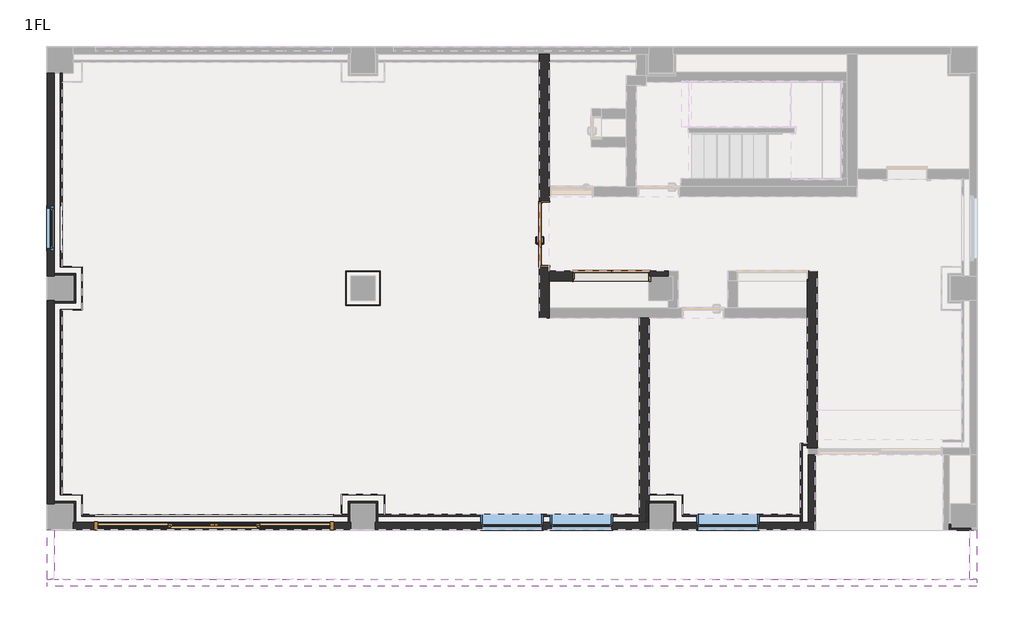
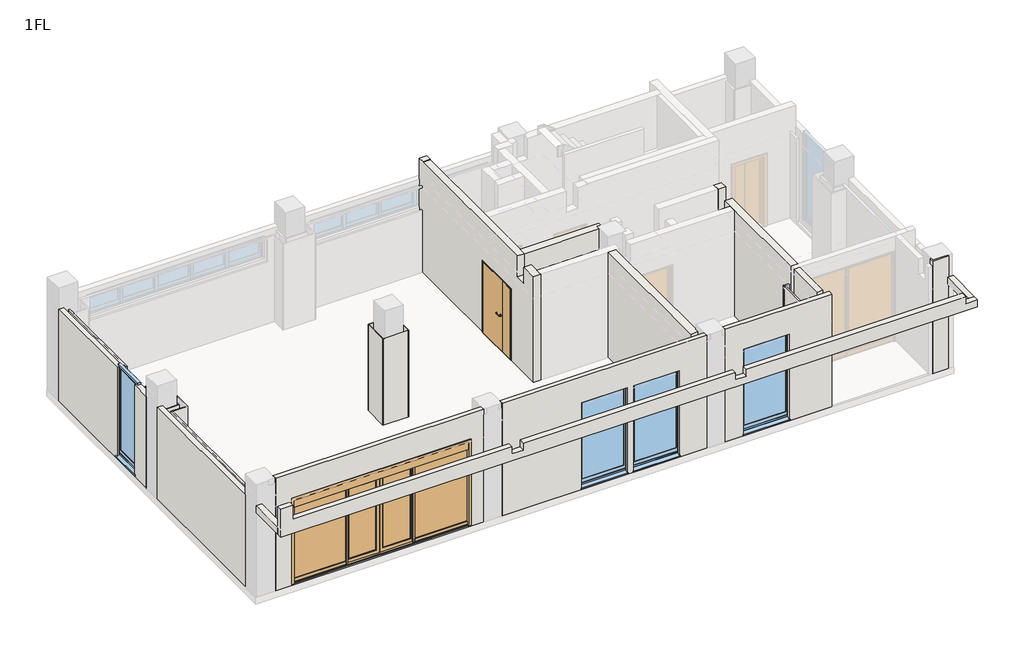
# One storey, part 1 of 3: 43 walls, 4 windows, 3 doors.
"""IFC4 building model written with IfcOpenShell, lengths in millimetres."""

from ifc_helpers import new_model, si_unit, frame, origin, place, context, project, spatial, polyline, outline, extrude, faceted_brep, transform, mapped, element, save
from components import door_5dd87f21, door_5352abf3, door_2ddaac4c, window_34b737b2, window_808e8724

model = new_model("IFC4")

# Units and contexts
model_context = context("Model", 3, world=origin())
ifc_project = project(units=[si_unit("LENGTHUNIT", "METRE", prefix="MILLI")], contexts=[model_context])

# Site, building, storey
site = spatial("IfcSite", under=ifc_project)
building = spatial("IfcBuilding", under=site)
storey = spatial("IfcBuildingStorey", under=building, Name="1FL", Elevation=100.0)

# Doors
placement = place(None, origin())
door_shape = door_5dd87f21(model_context)
element("IfcDoor", 1, ObjectType="B1 両開 フラッシュ_A1枠 : SD5-H2000W1500", at=placement, inside=storey, context=model_context, shape_type="MappedRepresentation", body=[
    mapped(door_shape, transform((11090.0, 4839.9999966, 100.0), x_axis=(1.0, 0.0, 0.0), y_axis=(0.0, 1.0, 0.0), z_axis=(0.0, 0.0, 1.0))),
])
door_2_shape = door_5352abf3(model_context)
element("IfcDoor", 2, ObjectType="□C1 親子 フラッシュ_A2枠 : SD1_H2000W1250", at=placement, inside=storey, context=model_context, shape_type="MappedRepresentation", body=[
    mapped(door_2_shape, transform((9740.0, 5687.5, 100.0), x_axis=(0.0, -1.0, 0.0), y_axis=(1.0, 0.0, 0.0), z_axis=(0.0, 0.0, 1.0))),
])
door_3_shape = door_2ddaac4c(model_context)
element("IfcDoor", 3, ObjectType="BC_STD_引分自動_欄間付 : SSD2_H2360W4680", at=placement, inside=storey, context=model_context, shape_type="MappedRepresentation", body=[
    mapped(door_3_shape, transform((3090.0, -197.5, 100.0), x_axis=(-1.0, 0.0, 0.0), y_axis=(0.0, -1.0, 0.0), z_axis=(0.0, 0.0, 1.0))),
])

# Walls
element("IfcWall", 4, ObjectType="•_RC120+押出法ポリスチレンフォーム1種 t25", at=placement, inside=storey, context=model_context, shape_type="Brep", body=[
    faceted_brep([(-125.0, 8930.0, 50.0), (-125.0, 8930.0, 2649.9998563), (-125.0, 6260.0, 2649.9998563), (-125.0, 6260.0, 185.0), (-125.0, 5340.0, 185.0), (-125.0, 5340.0, 2649.9998563), (-125.0, 4840.0, 2649.9998563), (-125.0, 4840.0, 50.0), (-125.0, 4860.0, 50.0), (-125.0, 4890.0, 50.0), (-270.0, 6210.0, 170.0), (-270.0, 6210.0, 2649.9998563), (-270.0, 8930.0, 2649.9998563), (-270.0, 8930.0, 50.0), (-270.0, 4840.0, 50.0), (-270.0, 4840.0, 2649.9998563), (-270.0, 5390.0, 2649.9998563), (-270.0, 5390.0, 170.0), (-270.0, 5390.0, 115.0), (-270.0, 6210.0, 115.0), (-210.0, 6210.0, 2649.9998563), (-210.0, 6260.0, 2649.9998563), (-210.0, 5340.0, 2649.9998563), (-210.0, 5390.0, 2649.9998563), (-210.0, 6260.0, 115.0), (-140.0, 6260.0, 115.0), (-140.0, 6260.0, 185.0), (-140.0, 5340.0, 185.0), (-140.0, 5340.0, 115.0), (-210.0, 5340.0, 115.0), (-210.0, 6210.0, 115.0), (-210.0, 5390.0, 115.0)], [[[0, 1, 2, 3, 4, 5, 6, 7, 8, 9]], [[10, 11, 12, 13, 14, 15, 16, 17, 18, 19]], [[13, 0, 9, 8, 7, 14]], [[1, 12, 11, 20, 21, 2]], [[5, 22, 23, 16, 15, 6]], [[1, 0, 13, 12]], [[24, 25, 26, 3, 2, 21]], [[27, 28, 29, 22, 5, 4]], [[26, 27, 4, 3]], [[25, 24, 30, 19, 18, 31, 29, 28]], [[30, 24, 21, 20]], [[29, 31, 23, 22]], [[25, 28, 27, 26]], [[19, 30, 20, 11, 10]], [[31, 18, 17, 16, 23]], [[7, 6, 15, 14]]]),
    faceted_brep([(-125.0, 250.0, 2649.9998563), (-125.0, 250.0, 50.0), (-125.0, 270.0, 50.0), (-125.0, 300.0, 50.0), (-125.0, 4290.0, 50.0), (-125.0, 4320.0, 50.0), (-125.0, 4340.0, 50.0), (-125.0, 4340.0, 2649.9998563), (-270.0, 250.0, 50.0), (-270.0, 250.0, 2649.9998563), (-270.0, 4340.0, 2649.9998563), (-270.0, 4340.0, 50.0)], [[[0, 1, 2, 3, 4, 5, 6, 7]], [[8, 9, 10, 11]], [[1, 8, 11, 6, 5, 4, 3, 2]], [[9, 0, 7, 10]], [[7, 6, 11, 10]], [[1, 0, 9, 8]]]),
])
element("IfcWall", 5, ObjectType="•_RC120+押出法ポリスチレンフォーム1種 t25", at=placement, inside=storey, context=model_context, shape_type="Brep", body=[
    faceted_brep([(15200.0, -125.0, 50.0), (15055.0, -125.0, 50.0), (14940.0, -125.0, 50.0), (14897.5, -125.0, 50.0), (12389.9999426, -125.0, 50.0), (12359.9999426, -125.0, 50.0), (12340.0, -125.0, 50.0), (12340.0, -125.0, 2650.0), (15055.0, -125.0, 2650.0), (15200.0, -125.0, 2650.0), (12810.0, -125.0, 2530.0), (12810.0, -125.0, 95.0), (14070.0, -125.0, 95.0), (14070.0, -125.0, 2530.0), (15200.0, -270.0, 50.0), (15200.0, -270.0, 3100.0), (15200.0, -270.0, 3250.0), (12340.0, -270.0, 3250.0), (12340.0, -270.0, 3100.0), (12340.0, -270.0, 50.0), (14050.0, -270.0, 95.0), (12830.0, -270.0, 95.0), (12830.0, -270.0, 2510.0), (14050.0, -270.0, 2510.0), (15200.0, -150.0, 3250.0), (12340.0, -150.0, 3250.0), (12340.0, -250.0, 3250.0), (15200.0, -150.0, 2650.0), (15200.0, -150.0, 3100.0), (12810.0, -210.0, 95.0), (12830.0, -210.0, 95.0), (14050.0, -210.0, 95.0), (14070.0, -210.0, 95.0), (12810.0, -210.0, 2530.0), (14070.0, -210.0, 2530.0), (14050.0, -210.0, 2510.0), (12830.0, -210.0, 2510.0), (12340.0000006, -150.0, 2650.0)], [[[0, 1, 2, 3, 4, 5, 6, 7, 8, 9], [10, 11, 12, 13]], [[14, 15, 16, 17, 18, 19], [20, 21, 22, 23]], [[6, 5, 4, 3, 2, 1, 0, 14, 19]], [[17, 16, 24, 25, 26]], [[16, 15, 14, 0, 9, 27, 28, 24]], [[29, 30, 21, 20, 31, 32, 12, 11]], [[29, 33, 34, 32, 31, 35, 36, 30]], [[21, 30, 36, 22]], [[31, 20, 23, 35]], [[36, 35, 23, 22]], [[27, 37, 25, 24, 28]], [[37, 27, 9, 8, 7]], [[6, 19, 18, 17, 26, 25, 37, 7]], [[33, 29, 11, 10]], [[32, 34, 13, 12]], [[34, 33, 10, 13]]]),
    faceted_brep([(5840.0, -125.0, 50.0), (5820.0008327, -125.0, 50.0), (5790.0008327, -125.0, 50.0), (300.0, -125.0, 50.0), (270.0, -125.0, 50.0), (250.0, -125.0, 50.0), (250.0, -125.0, 2650.0), (5840.0, -125.0, 2650.0), (5500.0, -125.0, 85.0), (5500.0, -125.0, 2530.0), (680.0, -125.0, 2530.0), (680.0, -125.0, 85.0), (5840.0, -270.0, 50.0), (5840.0, -270.0, 3100.0), (5840.0, -270.0, 3250.0), (250.0, -270.0, 3250.0), (250.0, -270.0, 3100.0), (250.0, -270.0, 50.0), (5500.0, -270.0, 2530.0), (5500.0, -270.0, 85.0), (680.0, -270.0, 85.0), (680.0, -270.0, 2530.0), (5840.0, -150.0, 3250.0), (250.0, -150.0, 3250.0), (250.0, -250.0, 3250.0), (5840.0, -250.0, 3250.0), (5840.0, -150.0, 2650.0), (250.0, -150.0, 2650.0)], [[[0, 1, 2, 3, 4, 5, 6, 7], [8, 9, 10, 11]], [[12, 13, 14, 15, 16, 17], [18, 19, 20, 21]], [[5, 4, 3, 2, 1, 0, 12, 17]], [[22, 23, 24, 15, 14, 25]], [[12, 0, 7, 26, 22, 25, 14, 13]], [[8, 19, 18, 9]], [[19, 8, 11, 20]], [[20, 11, 10, 21]], [[9, 18, 21, 10]], [[23, 22, 26, 27]], [[7, 6, 27, 26]], [[5, 17, 16, 15, 24, 23, 27, 6]]]),
    faceted_brep([(11840.0, -125.0, 50.0), (11820.0015823, -125.0, 50.0), (11790.0015823, -125.0, 50.0), (11649.9999991, -125.0, 50.0), (6389.9999426, -125.0, 50.0), (6359.9999426, -125.0, 50.0), (6340.0, -125.0, 50.0), (6340.0, -125.0, 2650.0), (11649.9999991, -125.0, 2650.0), (11840.0, -125.0, 2650.0), (9860.0, -125.0, 2530.0), (9860.0, -125.0, 95.0), (11120.0, -125.0, 95.0), (11120.0, -125.0, 2530.0), (8460.0, -125.0, 2530.0), (8460.0, -125.0, 95.0), (9720.0, -125.0, 95.0), (9720.0, -125.0, 2530.0), (6340.0, -270.0, 3250.0), (6340.0, -270.0, 3100.0), (6340.0, -270.0, 50.0), (11840.0, -270.0, 50.0), (11840.0, -270.0, 3100.0), (11840.0, -270.0, 3250.0), (9700.0, -270.0, 95.0), (8480.0, -270.0, 95.0), (8480.0, -270.0, 2510.0), (9700.0, -270.0, 2510.0), (11100.0, -270.0, 95.0), (9880.0, -270.0, 95.0), (9880.0, -270.0, 2510.0), (11100.0, -270.0, 2510.0), (11840.0, -150.0, 3250.0), (6340.0, -150.0, 3250.0), (6340.0, -250.0, 3250.0), (11840.0, -250.0, 3250.0), (11840.0, -150.0, 2650.0), (8460.0, -210.0, 95.0), (8480.0, -210.0, 95.0), (9700.0, -210.0, 95.0), (9720.0, -210.0, 95.0), (8460.0, -210.0, 2530.0), (9720.0, -210.0, 2530.0), (9700.0, -210.0, 2510.0), (8480.0, -210.0, 2510.0), (9860.0, -210.0, 95.0), (9880.0, -210.0, 95.0), (11100.0, -210.0, 95.0), (11120.0, -210.0, 95.0), (9860.0, -210.0, 2530.0), (11120.0, -210.0, 2530.0), (11100.0, -210.0, 2510.0), (9880.0, -210.0, 2510.0), (6340.0000006, -150.0, 2650.0)], [[[0, 1, 2, 3, 4, 5, 6, 7, 8, 9], [10, 11, 12, 13], [14, 15, 16, 17]], [[18, 19, 20, 21, 22, 23], [24, 25, 26, 27], [28, 29, 30, 31]], [[6, 5, 4, 3, 2, 1, 0, 21, 20]], [[32, 33, 34, 18, 23, 35]], [[21, 0, 9, 36, 32, 35, 23, 22]], [[37, 38, 25, 24, 39, 40, 16, 15]], [[37, 41, 42, 40, 39, 43, 44, 38]], [[25, 38, 44, 26]], [[39, 24, 27, 43]], [[44, 43, 27, 26]], [[45, 46, 29, 28, 47, 48, 12, 11]], [[45, 49, 50, 48, 47, 51, 52, 46]], [[29, 46, 52, 30]], [[47, 28, 31, 51]], [[52, 51, 31, 30]], [[36, 53, 33, 32]], [[53, 36, 9, 8, 7]], [[6, 20, 19, 18, 34, 33, 53, 7]], [[49, 45, 11, 10]], [[48, 50, 13, 12]], [[50, 49, 10, 13]], [[41, 37, 15, 14]], [[40, 42, 17, 16]], [[42, 41, 14, 17]]]),
])
element("IfcWall", 6, ObjectType="•_RC120+押出法ポリスチレンフォーム1種 t25", at=placement, inside=storey, context=model_context, shape_type="SweptSolid", body=[
    extrude(outline(polyline([(1230.0, 50.0), (-125.0, 50.0), (-125.0, 2650.0), (150.0, 2650.0), (150.0, 3100.0), (1230.0, 3100.0), (1230.0, 50.0)])), frame((15055.0, 0.0, 0.0), z_axis=(1.0, 0.0, 0.0), x_axis=(0.0, 1.0, 0.0)), (0.0, 0.0, 1.0), 145.0),
])
element("IfcWall", 7, ObjectType="•ALC100+20", at=placement, inside=storey, context=model_context, shape_type="Brep", body=[
    faceted_brep([(17900.0, -284.9999682, 50.0), (18330.0, -284.9999682, 50.0), (18330.0, -284.9999682, 2650.0), (18330.0, -284.9999682, 3250.0), (17900.0, -284.9999682, 3250.0), (17900.0, -284.9999682, 3100.0), (17900.0, -164.9999682, 50.0), (17900.0, -164.9999682, 3250.0), (17930.0, -164.9999682, 3250.0), (17930.0, -164.9999682, 50.0), (17930.0, -250.0, 50.0), (18330.0, -250.0, 50.0), (18330.0, -250.0, 3250.0), (17930.0, -250.0, 3250.0), (18330.0, -250.0, 2650.0)], [[[0, 1, 2, 3, 4, 5]], [[6, 7, 8, 9]], [[1, 0, 6, 9, 10, 11]], [[4, 3, 12, 13, 8, 7]], [[0, 5, 4, 7, 6]], [[3, 2, 1, 11, 14, 12]], [[13, 10, 9, 8]], [[10, 13, 12, 14, 11]]]),
])
element("IfcWall", 8, ObjectType="•RC30+12.5", at=placement, inside=storey, context=model_context, shape_type="Brep", body=[
    faceted_brep([(11649.9999991, 32.5, 50.0), (6528.5, 32.5, 50.0), (6516.0, 32.5, 50.0), (6389.9999426, 32.5, 50.0), (6389.9999426, 32.5, 2550.0), (6516.0, 32.5, 2550.0), (6528.5, 32.5, 2550.0), (11649.9999991, 32.5, 2550.0), (8460.0, 32.5, 2530.0), (8460.0, 32.5, 95.0), (9720.0, 32.5, 95.0), (9720.0, 32.5, 2530.0), (9860.0, 32.5, 2530.0), (9860.0, 32.5, 95.0), (11120.0, 32.5, 95.0), (11120.0, 32.5, 2530.0), (6389.9999426, -10.0, 50.0), (11649.9999991, -10.0, 50.0), (11649.9999991, -10.0, 2550.0), (6389.9999426, -10.0, 2550.0), (8460.0, -10.0, 95.0), (8460.0, -10.0, 2530.0), (9720.0, -10.0, 2530.0), (9720.0, -10.0, 95.0), (9860.0, -10.0, 95.0), (9860.0, -10.0, 2530.0), (11120.0, -10.0, 2530.0), (11120.0, -10.0, 95.0)], [[[0, 1, 2, 3, 4, 5, 6, 7], [8, 9, 10, 11], [12, 13, 14, 15]], [[16, 17, 18, 19], [20, 21, 22, 23], [24, 25, 26, 27]], [[3, 2, 1, 0, 17, 16]], [[7, 6, 5, 4, 19, 18]], [[0, 7, 18, 17]], [[4, 3, 16, 19]], [[8, 21, 20, 9]], [[10, 23, 22, 11]], [[21, 8, 11, 22]], [[9, 20, 23, 10]], [[12, 25, 24, 13]], [[26, 15, 14, 27]], [[25, 12, 15, 26]], [[13, 24, 27, 14]]]),
])
element("IfcWall", 9, ObjectType="•RC30+12.5", at=placement, inside=storey, context=model_context, shape_type="Brep", body=[
    faceted_brep([(5790.0008327, 32.5, 50.0), (5664.0, 32.5, 50.0), (5651.5, 32.5, 50.0), (438.5, 32.5, 50.0), (426.0, 32.5, 50.0), (426.0, 32.5, 2550.0), (438.5, 32.5, 2550.0), (5651.5, 32.5, 2550.0), (5664.0, 32.5, 2550.0), (5790.0008327, 32.5, 2550.0), (5500.0, 32.5, 2530.0), (680.0, 32.5, 2530.0), (680.0, 32.5, 85.0), (5500.0, 32.5, 85.0), (5790.0008327, -10.0, 50.0), (5790.0008327, -10.0, 2550.0), (426.0, -10.0, 2550.0), (426.0, -10.0, 50.0), (5500.0, -10.0, 2530.0), (5500.0, -10.0, 85.0), (680.0, -10.0, 85.0), (680.0, -10.0, 2530.0)], [[[0, 1, 2, 3, 4, 5, 6, 7, 8, 9], [10, 11, 12, 13]], [[14, 15, 16, 17], [18, 19, 20, 21]], [[4, 3, 2, 1, 0, 14, 17]], [[9, 8, 7, 6, 5, 16, 15]], [[5, 4, 17, 16]], [[19, 18, 10, 13]], [[20, 19, 13, 12]], [[21, 20, 12, 11]], [[18, 21, 11, 10]], [[0, 9, 15, 14]]]),
])
element("IfcWall", 10, ObjectType="•RC30+12.5", at=placement, inside=storey, context=model_context, shape_type="Brep", body=[
    faceted_brep([(32.5, 426.0, 50.0), (32.5, 438.5, 50.0), (32.5, 4151.5, 50.0), (32.5, 4164.0, 50.0), (32.5, 4164.0, 2550.0), (32.5, 4151.5, 2550.0), (32.5, 438.5, 2550.0), (32.5, 426.0, 2550.0), (-10.0, 426.0, 50.0), (-10.0, 426.0, 2550.0), (-10.0, 4164.0, 2550.0), (-10.0, 4164.0, 50.0)], [[[0, 1, 2, 3, 4, 5, 6, 7]], [[8, 9, 10, 11]], [[3, 2, 1, 0, 8, 11]], [[7, 6, 5, 4, 10, 9]], [[0, 7, 9, 8]], [[4, 3, 11, 10]]]),
])
element("IfcWall", 11, ObjectType="•RC30+12.5", at=placement, inside=storey, context=model_context, shape_type="Brep", body=[
    faceted_brep([(32.5, 5016.0, 50.0), (32.5, 5028.5, 50.0), (32.5, 8741.5, 50.0), (32.5, 8754.0, 50.0), (32.5, 8930.0, 50.0), (32.5, 8930.0, 2550.0), (32.5, 8754.0, 2550.0), (32.5, 8741.5, 2550.0), (32.5, 6260.0, 2550.0), (32.5, 6260.0, 185.0), (32.5, 5340.0, 185.0), (32.5, 5340.0, 2550.0), (32.5, 5028.5, 2550.0), (32.5, 5016.0, 2550.0), (-10.0, 8930.0, 50.0), (-10.0, 5016.0, 50.0), (-10.0, 5016.0, 2550.0), (-10.0, 5340.0, 2550.0), (-10.0, 5340.0, 185.0), (-10.0, 6260.0, 185.0), (-10.0, 6260.0, 2550.0), (-10.0, 8930.0, 2550.0)], [[[0, 1, 2, 3, 4, 5, 6, 7, 8, 9, 10, 11, 12, 13]], [[14, 15, 16, 17, 18, 19, 20, 21]], [[4, 3, 2, 1, 0, 15, 14]], [[5, 4, 14, 21]], [[5, 21, 20, 8, 7, 6]], [[16, 13, 12, 11, 17]], [[0, 13, 16, 15]], [[19, 9, 8, 20]], [[10, 18, 17, 11]], [[9, 19, 18, 10]]]),
])
element("IfcWall", 12, ObjectType="•RC30+12.5", at=placement, inside=storey, context=model_context, shape_type="Brep", body=[
    faceted_brep([(14897.5, 1420.0, 50.0), (14897.5, 32.5, 50.0), (14897.5, -10.0, 50.0), (14897.5, -125.0, 50.0), (14897.5, -125.0, 2550.0), (14897.5, -10.0, 2550.0), (14897.5, 32.5, 2550.0), (14897.5, 1420.0, 2550.0), (14940.0, 1420.0, 50.0), (14940.0, 1420.0, 2550.0), (14940.0, -125.0, 2550.0), (14940.0, -125.0, 50.0)], [[[0, 1, 2, 3, 4, 5, 6, 7]], [[8, 9, 10, 11]], [[3, 2, 1, 0, 8, 11]], [[7, 6, 5, 4, 10, 9]], [[0, 7, 9, 8]], [[4, 3, 11, 10]]]),
])
element("IfcWall", 13, ObjectType="•RC30+12.5", at=placement, inside=storey, context=model_context, shape_type="Brep", body=[
    faceted_brep([(14897.5, 32.5, 50.0), (12528.5, 32.5, 50.0), (12516.0, 32.5, 50.0), (12516.0, 32.5, 2550.0), (12528.5, 32.5, 2550.0), (14897.5, 32.5, 2550.0), (12810.0, 32.5, 2530.0), (12810.0, 32.5, 95.0), (14070.0, 32.5, 95.0), (14070.0, 32.5, 2530.0), (12516.0, -10.0, 50.0), (14897.5, -10.0, 50.0), (14897.5, -10.0, 2550.0), (12516.0, -10.0, 2550.0), (12810.0, -10.0, 95.0), (12810.0, -10.0, 2530.0), (14070.0, -10.0, 2530.0), (14070.0, -10.0, 95.0)], [[[0, 1, 2, 3, 4, 5], [6, 7, 8, 9]], [[10, 11, 12, 13], [14, 15, 16, 17]], [[2, 1, 0, 11, 10]], [[5, 4, 3, 13, 12]], [[0, 5, 12, 11]], [[3, 2, 10, 13]], [[6, 15, 14, 7]], [[8, 17, 16, 9]], [[15, 6, 9, 16]], [[7, 14, 17, 8]]]),
])
element("IfcWall", 14, ObjectType="•t=30mm", at=placement, inside=storey, context=model_context, shape_type="Brep", body=[
    faceted_brep([(300.0, -125.0, 50.0), (300.0, 300.0, 50.0), (300.0, 300.0, 2550.0), (300.0, -125.0, 2550.0), (270.0, -125.0, 50.0), (270.0, -125.0, 2550.0), (270.0, 270.0, 2550.0), (270.0, 300.0, 2550.0), (270.0, 300.0, 50.0), (270.0, 270.0, 50.0)], [[[0, 1, 2, 3]], [[4, 5, 6, 7, 8, 9]], [[1, 0, 4, 9, 8]], [[3, 2, 7, 6, 5]], [[2, 1, 8, 7]], [[0, 3, 5, 4]]]),
])
element("IfcWall", 15, ObjectType="•t=30mm", at=placement, inside=storey, context=model_context, shape_type="SweptSolid", body=[
    extrude(outline(polyline([(-125.0, 300.0), (270.0, 300.0), (270.0, 270.0), (-125.0, 270.0), (-125.0, 300.0)])), frame((0.0, 0.0, 50.0), z_axis=(0.0, 0.0, 1.0), x_axis=(1.0, 0.0, 0.0)), (0.0, 0.0, 1.0), 2500.0),
])
element("IfcWall", 16, ObjectType="•t=30mm", at=placement, inside=storey, context=model_context, shape_type="Brep", body=[
    faceted_brep([(5820.0008327, -125.0, 50.0), (5820.0008327, 269.9999177, 50.0), (5820.0008327, 299.9999177, 50.0), (5820.0008327, 299.9999177, 2550.0), (5820.0008327, 269.9999177, 2550.0), (5820.0008327, -125.0, 2550.0), (5790.0008327, -125.0, 50.0), (5790.0008327, -125.0, 2550.0), (5790.0008327, -10.0, 2550.0), (5790.0008327, 32.5, 2550.0), (5790.0008327, 299.9998683, 2550.0), (5790.0008327, 299.9998683, 50.0), (5790.0008327, 32.5, 50.0), (5790.0008327, -10.0, 50.0)], [[[0, 1, 2, 3, 4, 5]], [[6, 7, 8, 9, 10, 11, 12, 13]], [[2, 1, 0, 6, 13, 12, 11]], [[5, 4, 3, 10, 9, 8, 7]], [[3, 2, 11, 10]], [[0, 5, 7, 6]]]),
])
element("IfcWall", 17, ObjectType="•t=30mm", at=placement, inside=storey, context=model_context, shape_type="Brep", body=[
    faceted_brep([(5820.0008327, 269.9999177, 50.0), (6359.9999426, 270.0008078, 50.0), (6389.9999426, 270.0008573, 50.0), (6389.9999426, 270.0008573, 2550.0), (6359.9999426, 270.0008078, 2550.0), (5820.0008327, 269.9999177, 2550.0), (5820.0008327, 299.9999177, 50.0), (5820.0008327, 299.9999177, 2550.0), (6389.9999426, 300.0008573, 2550.0), (6389.9999426, 300.0008573, 50.0)], [[[0, 1, 2, 3, 4, 5]], [[6, 7, 8, 9]], [[2, 1, 0, 6, 9]], [[5, 4, 3, 8, 7]], [[0, 5, 7, 6]], [[3, 2, 9, 8]]]),
])
element("IfcWall", 18, ObjectType="•t=30mm", at=placement, inside=storey, context=model_context, shape_type="Brep", body=[
    faceted_brep([(6359.9999426, 270.0008078, 50.0), (6359.9999426, -125.0, 50.0), (6359.9999426, -125.0, 2550.0), (6359.9999426, 270.0008078, 2550.0), (6389.9999426, 270.0008573, 50.0), (6389.9999426, 270.0008573, 2550.0), (6389.9999426, 32.5, 2550.0), (6389.9999426, -10.0, 2550.0), (6389.9999426, -125.0, 2550.0), (6389.9999426, -125.0, 50.0), (6389.9999426, -10.0, 50.0), (6389.9999426, 32.5, 50.0)], [[[0, 1, 2, 3]], [[4, 5, 6, 7, 8, 9, 10, 11]], [[1, 0, 4, 11, 10, 9]], [[3, 2, 8, 7, 6, 5]], [[0, 3, 5, 4]], [[2, 1, 9, 8]]]),
])
element("IfcWall", 19, ObjectType="•t=30mm", at=placement, inside=storey, context=model_context, shape_type="Brep", body=[
    faceted_brep([(11820.0015823, -125.0, 50.0), (11820.0015823, 270.0008573, 50.0), (11820.0015823, 300.0008573, 50.0), (11820.0015823, 300.0008573, 2550.0), (11820.0015823, 270.0008573, 2550.0), (11820.0015823, -125.0, 2550.0), (11790.0015823, -125.0, 50.0), (11790.0015823, -125.0, 2550.0), (11790.0015823, 300.00086, 2550.0), (11790.0015823, 300.00086, 50.0)], [[[0, 1, 2, 3, 4, 5]], [[6, 7, 8, 9]], [[2, 1, 0, 6, 9]], [[5, 4, 3, 8, 7]], [[0, 5, 7, 6]], [[3, 2, 9, 8]]]),
])
element("IfcWall", 20, ObjectType="•t=30mm", at=placement, inside=storey, context=model_context, shape_type="Brep", body=[
    faceted_brep([(11820.0015823, 270.0008573, 50.0), (12359.9999426, 270.0008078, 50.0), (12389.9999426, 270.0008051, 50.0), (12389.9999426, 270.0008051, 2550.0), (12359.9999426, 270.0008078, 2550.0), (11820.0015823, 270.0008573, 2550.0), (11820.0015823, 300.0008573, 50.0), (11820.0015823, 300.0008573, 2550.0), (12389.9999426, 300.0008051, 2550.0), (12389.9999426, 300.0008051, 50.0)], [[[0, 1, 2, 3, 4, 5]], [[6, 7, 8, 9]], [[2, 1, 0, 6, 9]], [[5, 4, 3, 8, 7]], [[0, 5, 7, 6]], [[3, 2, 9, 8]]]),
])
element("IfcWall", 21, ObjectType="•t=30mm", at=placement, inside=storey, context=model_context, shape_type="SweptSolid", body=[
    extrude(outline(polyline([(12359.9999426, -125.0), (12359.9999426, 270.0008078), (12389.9999426, 270.0008051), (12389.9999426, -125.0), (12359.9999426, -125.0)])), frame((0.0, 0.0, 50.0), z_axis=(0.0, 0.0, 1.0), x_axis=(1.0, 0.0, 0.0)), (0.0, 0.0, 1.0), 2500.0),
])
element("IfcWall", 22, ObjectType="•PB12.5", at=placement, inside=storey, context=model_context, shape_type="Brep", body=[
    faceted_brep([(438.5, 32.5, 50.0), (438.5, 438.5, 50.0), (438.5, 438.5, 2550.0), (438.5, 32.5, 2550.0), (426.0, 32.5, 50.0), (426.0, 32.5, 2550.0), (426.0, 426.0, 2550.0), (426.0, 438.5, 2550.0), (426.0, 438.5, 50.0), (426.0, 426.0, 50.0)], [[[0, 1, 2, 3]], [[4, 5, 6, 7, 8, 9]], [[1, 0, 4, 9, 8]], [[3, 2, 7, 6, 5]], [[2, 1, 8, 7]], [[0, 3, 5, 4]]]),
])
element("IfcWall", 23, ObjectType="•PB12.5", at=placement, inside=storey, context=model_context, shape_type="SweptSolid", body=[
    extrude(outline(polyline([(32.5, 438.5), (426.0, 438.5), (426.0, 426.0), (32.5, 426.0), (32.5, 438.5)])), frame((0.0, 0.0, 50.0), z_axis=(0.0, 0.0, 1.0), x_axis=(1.0, 0.0, 0.0)), (0.0, 0.0, 1.0), 2500.0),
])
element("IfcWall", 24, ObjectType="•PB12.5", at=placement, inside=storey, context=model_context, shape_type="Brep", body=[
    faceted_brep([(32.5, 4151.5, 50.0), (438.5, 4151.5, 50.0), (438.5, 4151.5, 2550.0), (32.5, 4151.5, 2550.0), (32.5, 4164.0, 50.0), (32.5, 4164.0, 2550.0), (426.0, 4164.0, 2550.0), (438.5, 4164.0, 2550.0), (438.5, 4164.0, 50.0), (426.0, 4164.0, 50.0)], [[[0, 1, 2, 3]], [[4, 5, 6, 7, 8, 9]], [[1, 0, 4, 9, 8]], [[3, 2, 7, 6, 5]], [[2, 1, 8, 7]], [[0, 3, 5, 4]]]),
])
element("IfcWall", 25, ObjectType="•PB12.5", at=placement, inside=storey, context=model_context, shape_type="Brep", body=[
    faceted_brep([(438.5, 4164.0, 50.0), (438.5, 5028.5, 50.0), (438.5, 5028.5, 2550.0), (438.5, 4164.0, 2550.0), (426.0, 4164.0, 50.0), (426.0, 4164.0, 2550.0), (426.0, 5016.0, 2550.0), (426.0, 5028.5, 2550.0), (426.0, 5028.5, 50.0), (426.0, 5016.0, 50.0)], [[[0, 1, 2, 3]], [[4, 5, 6, 7, 8, 9]], [[1, 0, 4, 9, 8]], [[3, 2, 7, 6, 5]], [[0, 3, 5, 4]], [[2, 1, 8, 7]]]),
])
element("IfcWall", 26, ObjectType="•PB12.5", at=placement, inside=storey, context=model_context, shape_type="SweptSolid", body=[
    extrude(outline(polyline([(32.5, 5028.5), (426.0, 5028.5), (426.0, 5016.0), (32.5, 5016.0), (32.5, 5028.5)])), frame((0.0, 0.0, 50.0), z_axis=(0.0, 0.0, 1.0), x_axis=(1.0, 0.0, 0.0)), (0.0, 0.0, 1.0), 2500.0),
])
element("IfcWall", 27, ObjectType="•t=30mm", at=placement, inside=storey, context=model_context, shape_type="Brep", body=[
    faceted_brep([(-125.0, 4290.0, 50.0), (300.0, 4290.0, 50.0), (300.0, 4290.0, 2550.0), (-125.0, 4290.0, 2550.0), (-125.0, 4320.0, 50.0), (-125.0, 4320.0, 2550.0), (270.0, 4320.0, 2550.0), (300.0, 4320.0, 2550.0), (300.0, 4320.0, 50.0), (270.0, 4320.0, 50.0)], [[[0, 1, 2, 3]], [[4, 5, 6, 7, 8, 9]], [[1, 0, 4, 9, 8]], [[3, 2, 7, 6, 5]], [[2, 1, 8, 7]], [[0, 3, 5, 4]]]),
])
element("IfcWall", 28, ObjectType="•t=30mm", at=placement, inside=storey, context=model_context, shape_type="Brep", body=[
    faceted_brep([(300.0, 4320.0, 50.0), (300.0, 4890.0, 50.0), (300.0, 4890.0, 2550.0), (300.0, 4320.0, 2550.0), (270.0, 4320.0, 50.0), (270.0, 4320.0, 2550.0), (270.0, 4860.0, 2550.0), (270.0, 4890.0, 2550.0), (270.0, 4890.0, 50.0), (270.0, 4860.0, 50.0)], [[[0, 1, 2, 3]], [[4, 5, 6, 7, 8, 9]], [[1, 0, 4, 9, 8]], [[3, 2, 7, 6, 5]], [[0, 3, 5, 4]], [[2, 1, 8, 7]]]),
])
element("IfcWall", 29, ObjectType="•t=30mm", at=placement, inside=storey, context=model_context, shape_type="SweptSolid", body=[
    extrude(outline(polyline([(-125.0, 4890.0), (270.0, 4890.0), (270.0, 4860.0), (-125.0, 4860.0), (-125.0, 4890.0)])), frame((0.0, 0.0, 50.0), z_axis=(0.0, 0.0, 1.0), x_axis=(1.0, 0.0, 0.0)), (0.0, 0.0, 1.0), 2500.0),
])
element("IfcWall", 30, ObjectType="•PB12.5", at=placement, inside=storey, context=model_context, shape_type="Brep", body=[
    faceted_brep([(6528.5, 32.5, 50.0), (6528.5, 438.5, 50.0), (6528.5, 438.5, 2550.0), (6528.5, 32.5, 2550.0), (6516.0, 32.5, 50.0), (6516.0, 32.5, 2550.0), (6516.0, 426.0, 2550.0), (6516.0, 438.5, 2550.0), (6516.0, 438.5, 50.0), (6516.0, 426.0, 50.0)], [[[0, 1, 2, 3]], [[4, 5, 6, 7, 8, 9]], [[1, 0, 4, 9, 8]], [[3, 2, 7, 6, 5]], [[0, 3, 5, 4]], [[2, 1, 8, 7]]]),
])
element("IfcWall", 31, ObjectType="•PB12.5", at=placement, inside=storey, context=model_context, shape_type="Brep", body=[
    faceted_brep([(6516.0, 438.5, 50.0), (5651.5, 438.5, 50.0), (5651.5, 438.5, 2550.0), (6516.0, 438.5, 2550.0), (6516.0, 426.0, 50.0), (6516.0, 426.0, 2550.0), (5664.0, 426.0, 2550.0), (5651.5, 426.0, 2550.0), (5651.5, 426.0, 50.0), (5664.0, 426.0, 50.0)], [[[0, 1, 2, 3]], [[4, 5, 6, 7, 8, 9]], [[1, 0, 4, 9, 8]], [[3, 2, 7, 6, 5]], [[0, 3, 5, 4]], [[2, 1, 8, 7]]]),
])
element("IfcWall", 32, ObjectType="•PB12.5", at=placement, inside=storey, context=model_context, shape_type="SweptSolid", body=[
    extrude(outline(polyline([(5651.5, 32.5), (5651.5, 426.0), (5664.0, 426.0), (5664.0, 32.5), (5651.5, 32.5)])), frame((0.0, 0.0, 50.0), z_axis=(0.0, 0.0, 1.0), x_axis=(1.0, 0.0, 0.0)), (0.0, 0.0, 1.0), 2500.0),
])
element("IfcWall", 33, ObjectType="•PB12.5", at=placement, inside=storey, context=model_context, shape_type="Brep", body=[
    faceted_brep([(12528.5, 32.5, 50.0), (12528.5, 438.5, 50.0), (12528.5, 438.5, 2550.0), (12528.5, 32.5, 2550.0), (12516.0, 32.5, 50.0), (12516.0, 32.5, 2550.0), (12516.0, 426.0, 2550.0), (12516.0, 438.5, 2550.0), (12516.0, 438.5, 50.0), (12516.0, 426.0, 50.0)], [[[0, 1, 2, 3]], [[4, 5, 6, 7, 8, 9]], [[1, 0, 4, 9, 8]], [[3, 2, 7, 6, 5]], [[2, 1, 8, 7]], [[0, 3, 5, 4]]]),
])
element("IfcWall", 34, ObjectType="•PB12.5", at=placement, inside=storey, context=model_context, shape_type="SweptSolid", body=[
    extrude(outline(polyline([(11849.9999991, 438.5), (12516.0, 438.5), (12516.0, 426.0), (11849.9999991, 426.0), (11849.9999991, 438.5)])), frame((0.0, 0.0, 50.0), z_axis=(0.0, 0.0, 1.0), x_axis=(1.0, 0.0, 0.0)), (0.0, 0.0, 1.0), 2500.0),
])
element("IfcWall", 35, ObjectType="•PB12.5", at=placement, inside=storey, context=model_context, shape_type="Brep", body=[
    faceted_brep([(6438.5, 4241.5, 50.0), (6438.5, 4938.4999969, 50.0), (6438.5, 4938.4999969, 2550.0), (6438.5, 4241.5, 2550.0), (6426.0, 4241.5, 50.0), (6426.0, 4241.5, 2550.0), (6426.0, 4254.0, 2550.0), (6426.0, 4925.9999969, 2550.0), (6426.0, 4938.4999969, 2550.0), (6426.0, 4938.4999969, 50.0), (6426.0, 4925.9999969, 50.0), (6426.0, 4254.0, 50.0)], [[[0, 1, 2, 3]], [[4, 5, 6, 7, 8, 9, 10, 11]], [[1, 0, 4, 11, 10, 9]], [[3, 2, 8, 7, 6, 5]], [[2, 1, 9, 8]], [[0, 3, 5, 4]]]),
])
element("IfcWall", 36, ObjectType="•PB12.5", at=placement, inside=storey, context=model_context, shape_type="Brep", body=[
    faceted_brep([(6426.0, 4938.4999969, 50.0), (5741.5, 4938.4999969, 50.0), (5741.5, 4938.4999969, 2550.0), (6426.0, 4938.4999969, 2550.0), (6426.0, 4925.9999969, 50.0), (6426.0, 4925.9999969, 2550.0), (5754.0, 4925.9999969, 2550.0), (5741.5, 4925.9999969, 2550.0), (5741.5, 4925.9999969, 50.0), (5754.0, 4925.9999969, 50.0)], [[[0, 1, 2, 3]], [[4, 5, 6, 7, 8, 9]], [[1, 0, 4, 9, 8]], [[3, 2, 7, 6, 5]], [[0, 3, 5, 4]], [[2, 1, 8, 7]]]),
])
element("IfcWall", 37, ObjectType="•PB12.5", at=placement, inside=storey, context=model_context, shape_type="Brep", body=[
    faceted_brep([(5741.5, 4925.9999969, 50.0), (5741.5, 4241.5, 50.0), (5741.5, 4241.5, 2550.0), (5741.5, 4925.9999969, 2550.0), (5754.0, 4925.9999969, 50.0), (5754.0, 4925.9999969, 2550.0), (5754.0, 4254.0, 2550.0), (5754.0, 4241.5, 2550.0), (5754.0, 4241.5, 50.0), (5754.0, 4254.0, 50.0)], [[[0, 1, 2, 3]], [[4, 5, 6, 7, 8, 9]], [[1, 0, 4, 9, 8]], [[3, 2, 7, 6, 5]], [[0, 3, 5, 4]], [[2, 1, 8, 7]]]),
])
element("IfcWall", 38, ObjectType="•PB12.5", at=placement, inside=storey, context=model_context, shape_type="SweptSolid", body=[
    extrude(outline(polyline([(6426.0, 4241.5), (5754.0, 4241.5), (5754.0, 4254.0), (6426.0, 4254.0), (6426.0, 4241.5)])), frame((0.0, 0.0, 50.0), z_axis=(0.0, 0.0, 1.0), x_axis=(1.0, 0.0, 0.0)), (0.0, 0.0, 1.0), 2500.0),
])
element("IfcWall", 39, ObjectType="•RC200", at=placement, inside=storey, context=model_context, shape_type="Brep", body=[
    faceted_brep([(12240.0, 4939.9999966, 50.0), (9840.0, 4939.9999966, 50.0), (9840.0, 4939.9999966, 3240.0), (11940.0, 4939.9999966, 3240.0), (11940.0, 4939.9999966, 2650.0), (12240.0, 4939.9999966, 2650.0), (11867.5, 4939.9999966, 100.0), (11867.5, 4939.9999966, 2127.5), (10312.5, 4939.9999966, 2127.5), (10312.5, 4939.9999966, 100.0), (9840.0, 4739.9999966, 50.0), (11840.0, 4739.9999966, 50.0), (11840.0, 4739.9999966, 100.0), (10312.5, 4739.9999966, 100.0), (10312.5, 4739.9999966, 2127.5), (11840.0, 4739.9999966, 2127.5), (11840.0, 4739.9999966, 2650.0), (11840.0, 4739.9999966, 3240.0), (9840.0, 4739.9999966, 3240.0), (9840.0, 4739.9999966, 2650.0), (12240.0, 4840.0, 50.0), (11840.0, 4840.0, 50.0), (12240.0, 4840.0, 2650.0), (11940.0, 4840.0, 2650.0), (11940.0, 4840.0, 3240.0), (11840.0, 4840.0, 3240.0), (11840.0, 4840.0, 2127.5), (11867.5, 4840.0, 2127.5), (11867.5, 4840.0, 100.0), (11840.0, 4840.0, 100.0)], [[[0, 1, 2, 3, 4, 5], [6, 7, 8, 9]], [[10, 11, 12, 13, 14, 15, 16, 17, 18, 19]], [[1, 0, 20, 21, 11, 10]], [[20, 0, 5, 22]], [[21, 20, 22, 23, 24, 25, 26, 27, 28, 29]], [[11, 21, 29, 12]], [[15, 26, 25, 17, 16]], [[1, 10, 19, 18, 2]], [[7, 6, 28, 27]], [[6, 9, 13, 12, 29, 28]], [[14, 13, 9, 8]], [[8, 7, 27, 26, 15, 14]], [[23, 4, 3, 24]], [[4, 23, 22, 5]], [[3, 2, 18, 17, 25, 24]]]),
])
element("IfcWall", 40, ObjectType="•RC200", at=placement, inside=storey, context=model_context, shape_type="Brep", body=[
    faceted_brep([(9640.0, 9305.0, 50.0), (9640.0, 9190.0, 50.0), (9640.0, 9147.5, 50.0), (9640.0, 3990.0, 50.0), (9640.0, 3990.0, 3100.0), (9640.0, 4440.0, 3100.0), (9640.0, 4440.0, 2650.0), (9640.0, 4740.0, 2650.0), (9640.0, 4740.0, 3240.0), (9640.0, 9130.0, 3240.0), (9640.0, 9130.0, 3250.0), (9640.0, 9305.0, 3250.0), (9640.0, 5035.0, 2127.5), (9640.0, 5035.0, 100.0), (9640.0, 6340.0, 100.0), (9640.0, 6340.0, 2127.5), (9840.0, 9305.0, 50.0), (9840.0, 9305.0, 3250.0), (9840.0, 9130.0, 3250.0), (9840.0, 9130.0, 3240.0), (9840.0, 6640.0, 3240.0), (9840.0, 6440.0, 3240.0), (9840.0, 4939.9999966, 3240.0), (9840.0, 4740.0, 3240.0), (9840.0, 4740.0, 2650.0), (9840.0, 4440.0, 2650.0), (9840.0, 4440.0, 3100.0), (9840.0, 4190.0, 3100.0), (9840.0, 3990.0, 3100.0), (9840.0, 3990.0, 50.0), (9840.0, 4190.0, 50.0), (9840.0, 4739.9999966, 50.0), (9840.0, 4939.9999966, 50.0), (9840.0, 5022.5, 50.0), (9840.0, 5022.5, 100.0), (9840.0, 5035.0, 100.0), (9840.0, 5035.0, 2127.5), (9840.0, 6340.0, 2127.5), (9840.0, 6340.0, 100.0), (9840.0, 6352.5, 100.0), (9840.0, 6352.5, 50.0), (9840.0, 6480.0, 50.0), (9840.0, 6640.0, 50.0), (9840.0, 9147.5, 50.0), (9840.0, 9190.0, 50.0), (9675.0, 6352.5, 50.0), (9675.0, 5022.5, 50.0), (9675.0, 5035.0, 100.0), (9675.0, 6340.0, 100.0), (9675.0, 5022.5, 100.0), (9675.0, 6352.5, 100.0)], [[[0, 1, 2, 3, 4, 5, 6, 7, 8, 9, 10, 11], [12, 13, 14, 15]], [[16, 17, 18, 19, 20, 21, 22, 23, 24, 25, 26, 27, 28, 29, 30, 31, 32, 33, 34, 35, 36, 37, 38, 39, 40, 41, 42, 43, 44]], [[3, 2, 1, 0, 16, 44, 43, 42, 41, 40, 45, 46, 33, 32, 31, 30, 29]], [[17, 11, 10, 18]], [[3, 29, 28, 4]], [[0, 11, 17, 16]], [[13, 12, 36, 35, 47]], [[14, 13, 47, 48]], [[15, 14, 48, 38, 37]], [[12, 15, 37, 36]], [[34, 49, 47, 35]], [[50, 39, 38, 48]], [[49, 34, 33, 46]], [[49, 46, 45, 50, 48, 47]], [[39, 50, 45, 40]], [[7, 24, 23, 8]], [[25, 6, 5, 26]], [[24, 7, 6, 25]], [[9, 8, 23, 22, 21, 20, 19]], [[9, 19, 18, 10]], [[5, 4, 28, 27, 26]]]),
])
element("IfcWall", 41, ObjectType="•RC200", at=placement, inside=storey, context=model_context, shape_type="Brep", body=[
    faceted_brep([(15240.0, 1375.0, 50.0), (15240.0, 1490.0, 50.0), (15240.0, 1532.5, 50.0), (15240.0, 4940.0, 50.0), (15240.0, 4940.0, 3240.0), (15240.0, 4740.0, 3240.0), (15240.0, 4740.0, 2650.0), (15240.0, 4440.0, 2650.0), (15240.0, 4440.0, 3100.0), (15240.0, 1375.0, 3100.0), (15040.0, 4940.0, 50.0), (15040.0, 4740.0, 50.0), (15040.0, 4190.0, 50.0), (15040.0, 3990.0, 50.0), (15040.0, 1462.5, 50.0), (15040.0, 1420.0, 50.0), (15040.0, 1375.0, 50.0), (15040.0, 1375.0, 3100.0), (15040.0, 3990.0, 3100.0), (15040.0, 4190.0, 3100.0), (15040.0, 4440.0, 3100.0), (15040.0, 4440.0, 2650.0), (15040.0, 4740.0, 2650.0), (15040.0, 4740.0, 3240.0), (15040.0, 4940.0, 3240.0), (15040.0, 4940.0, 2127.5), (15040.0, 4740.0, 2127.5), (15040.0, 4740.0, 100.0), (15040.0, 4940.0, 100.0), (15055.0, 1375.0, 50.0), (15067.5, 4940.0, 100.0), (15067.5, 4940.0, 2127.5), (15055.0, 1375.0, 3100.0), (15067.5, 4740.0, 2127.5), (15067.5, 4740.0, 100.0)], [[[0, 1, 2, 3, 4, 5, 6, 7, 8, 9]], [[10, 11, 12, 13, 14, 15, 16, 17, 18, 19, 20, 21, 22, 23, 24, 25, 26, 27, 28]], [[3, 2, 1, 0, 29, 16, 15, 14, 13, 12, 11, 10]], [[3, 10, 28, 30, 31, 25, 24, 4]], [[16, 29, 0, 9, 32, 17]], [[33, 34, 27, 26]], [[34, 33, 31, 30]], [[34, 30, 28, 27]], [[31, 33, 26, 25]], [[22, 6, 5, 23]], [[7, 21, 20, 8]], [[6, 22, 21, 7]], [[9, 8, 20, 19, 18, 17, 32]], [[5, 4, 24, 23]]]),
])
element("IfcWall", 42, ObjectType="•RC30+12.5", at=placement, inside=storey, context=model_context, shape_type="Brep", body=[
    faceted_brep([(15040.0, 1462.5, 50.0), (14897.5, 1462.5, 50.0), (14897.5, 1462.5, 2550.0), (15040.0, 1462.5, 2550.0), (15040.0, 1420.0, 50.0), (15040.0, 1420.0, 2550.0), (14940.0, 1420.0, 2550.0), (14897.5, 1420.0, 2550.0), (14897.5, 1420.0, 50.0), (14940.0, 1420.0, 50.0)], [[[0, 1, 2, 3]], [[4, 5, 6, 7, 8, 9]], [[1, 0, 4, 9, 8]], [[3, 2, 7, 6, 5]], [[2, 1, 8, 7]], [[0, 3, 5, 4]]]),
])
element("IfcWall", 43, ObjectType="•RC200", at=placement, inside=storey, context=model_context, shape_type="Brep", body=[
    faceted_brep([(11849.9999991, 3990.0, 50.0), (11849.9999991, 3990.0, 3100.0), (11849.9999991, 250.0, 3100.0), (11849.9999991, 250.0, 50.0), (11849.9999991, 426.0, 50.0), (11849.9999991, 438.5, 50.0), (11649.9999991, 3990.0, 50.0), (11649.9999991, 32.5, 50.0), (11649.9999991, -10.0, 50.0), (11649.9999991, -125.0, 50.0), (11649.9999991, -125.0, 2650.0), (11649.9999991, 150.0, 2650.0), (11649.9999991, 150.0, 3100.0), (11649.9999991, 3990.0, 3100.0), (11840.0, 250.0, 50.0), (11840.0, -125.0, 50.0), (11840.0, -125.0, 2650.0), (11840.0, 150.0, 2650.0), (11840.0, 150.0, 3100.0), (11840.0, 250.0, 3100.0)], [[[0, 1, 2, 3, 4, 5]], [[6, 7, 8, 9, 10, 11, 12, 13]], [[9, 8, 7, 6, 0, 5, 4, 3, 14, 15]], [[0, 6, 13, 1]], [[10, 9, 15, 16]], [[11, 17, 18, 12]], [[17, 11, 10, 16]], [[2, 1, 13, 12, 18, 19]], [[14, 19, 18, 17, 16, 15]], [[19, 14, 3, 2]]]),
])
element("IfcWall", 44, ObjectType="• 省エネ_RC t120+押出法ポリスチレンフォーム保温版1種 t25", at=placement, inside=storey, context=model_context, shape_type="Brep", body=[
    faceted_brep([(18450.0, -1275.0, 2450.0), (18305.0, -1275.0, 2450.0), (-125.0, -1275.0, 2450.0), (-270.0, -1275.0, 2450.0), (-270.0, -1275.0, 2650.0), (-270.0, -1275.0, 3250.0), (50.0, -1275.0, 3250.0), (50.0, -1275.0, 2850.0), (5940.0, -1275.0, 2850.0), (5940.0, -1275.0, 2650.0), (6240.0, -1275.0, 2650.0), (6240.0, -1275.0, 2850.0), (11940.0, -1275.0, 2850.0), (11940.0, -1275.0, 2650.0), (12240.0, -1275.0, 2650.0), (12240.0, -1275.0, 2850.0), (18130.0, -1275.0, 2850.0), (18130.0, -1275.0, 2650.0), (18305.0, -1275.0, 2650.0), (18450.0, -1275.0, 2650.0), (-270.0, -1420.0, 2450.0), (18450.0, -1420.0, 2450.0), (18450.0, -1420.0, 2650.0), (18130.0, -1420.0, 2650.0), (18130.0, -1420.0, 2850.0), (12240.0, -1420.0, 2850.0), (12240.0, -1420.0, 2650.0), (11940.0, -1420.0, 2650.0), (11940.0, -1420.0, 2850.0), (11891.0054083, -1420.0, 2850.0), (6240.0, -1420.0, 2850.0), (6240.0, -1420.0, 2650.0), (5940.0, -1420.0, 2650.0), (5940.0, -1420.0, 2850.0), (50.0, -1420.0, 2850.0), (50.0, -1420.0, 3250.0), (-270.0, -1420.0, 3250.0)], [[[0, 1, 2, 3, 4, 5, 6, 7, 8, 9, 10, 11, 12, 13, 14, 15, 16, 17, 18, 19]], [[20, 21, 22, 23, 24, 25, 26, 27, 28, 29, 30, 31, 32, 33, 34, 35, 36]], [[3, 2, 1, 0, 21, 20]], [[5, 36, 35, 6]], [[5, 4, 3, 20, 36]], [[21, 0, 19, 22]], [[10, 31, 30, 11]], [[32, 9, 8, 33]], [[31, 10, 9, 32]], [[15, 14, 26, 25]], [[13, 12, 28, 27]], [[8, 7, 34, 33]], [[15, 25, 24, 16]], [[11, 30, 29, 28, 12]], [[26, 14, 13, 27]], [[34, 7, 6, 35]], [[23, 17, 16, 24]], [[17, 23, 22, 19, 18]]]),
])
element("IfcWall", 45, ObjectType="• 省エネ_RC t120+押出法ポリスチレンフォーム保温版1種 t25", at=placement, inside=storey, context=model_context, shape_type="SweptSolid", body=[
    extrude(outline(polyline([(-125.0, -270.0), (-125.0, -1275.0), (-270.0, -1275.0), (-270.0, -270.0), (-125.0, -270.0)])), frame((0.0, 0.0, 2450.0), z_axis=(0.0, 0.0, 1.0), x_axis=(1.0, 0.0, 0.0)), (0.0, 0.0, 1.0), 200.0),
])
element("IfcWall", 46, ObjectType="• 省エネ_RC t120+押出法ポリスチレンフォーム保温版1種 t25", at=placement, inside=storey, context=model_context, shape_type="Brep", body=[
    faceted_brep([(18305.0, -284.9999682, 2450.0), (18305.0, -1275.0, 2450.0), (18305.0, -1275.0, 2650.0), (18305.0, -284.9999682, 2650.0), (18450.0, -1275.0, 2450.0), (18450.0, -284.9999682, 2450.0), (18450.0, -284.9999682, 2650.0), (18450.0, -1275.0, 2650.0), (18330.0, -284.9999682, 2650.0)], [[[0, 1, 2, 3]], [[4, 5, 6, 7]], [[1, 0, 5, 4]], [[5, 0, 3, 8, 6]], [[1, 4, 7, 2]], [[3, 2, 7, 6, 8]]]),
])

# Windows
window_shape = window_34b737b2(model_context)
element("IfcWindow", 47, ObjectType="380_片開窓_01 : AW3-H2430W800", at=placement, inside=storey, context=model_context, shape_type="MappedRepresentation", body=[
    mapped(window_shape, transform((-197.5, 5800.0, -680.0), x_axis=(0.0, 1.0, 0.0), y_axis=(-1.0, 0.0, 0.0), z_axis=(0.0, 0.0, 1.0))),
])
window_2_shape = window_808e8724(model_context)
element("IfcWindow", 48, ObjectType="380_片開窓_01 : AW1-H2300W1200", at=placement, inside=storey, context=model_context, shape_type="MappedRepresentation", body=[
    mapped(window_2_shape, transform((9090.0, -197.5, -700.0), x_axis=(-1.0, 0.0, 0.0), y_axis=(0.0, -1.0, 0.0), z_axis=(0.0, 0.0, 1.0))),
])
element("IfcWindow", 49, ObjectType="380_片開窓_01 : AW1-H2300W1200", at=placement, inside=storey, context=model_context, shape_type="MappedRepresentation", body=[
    mapped(window_2_shape, transform((10490.0, -197.5, -700.0), x_axis=(-1.0, 0.0, 0.0), y_axis=(0.0, -1.0, 0.0), z_axis=(0.0, 0.0, 1.0))),
])
element("IfcWindow", 50, ObjectType="380_片開窓_01 : AW1-H2300W1200", at=placement, inside=storey, context=model_context, shape_type="MappedRepresentation", body=[
    mapped(window_2_shape, transform((13440.0, -197.5, -700.0), x_axis=(-1.0, 0.0, 0.0), y_axis=(0.0, -1.0, 0.0), z_axis=(0.0, 0.0, 1.0))),
])

save(model, "model.ifc")
